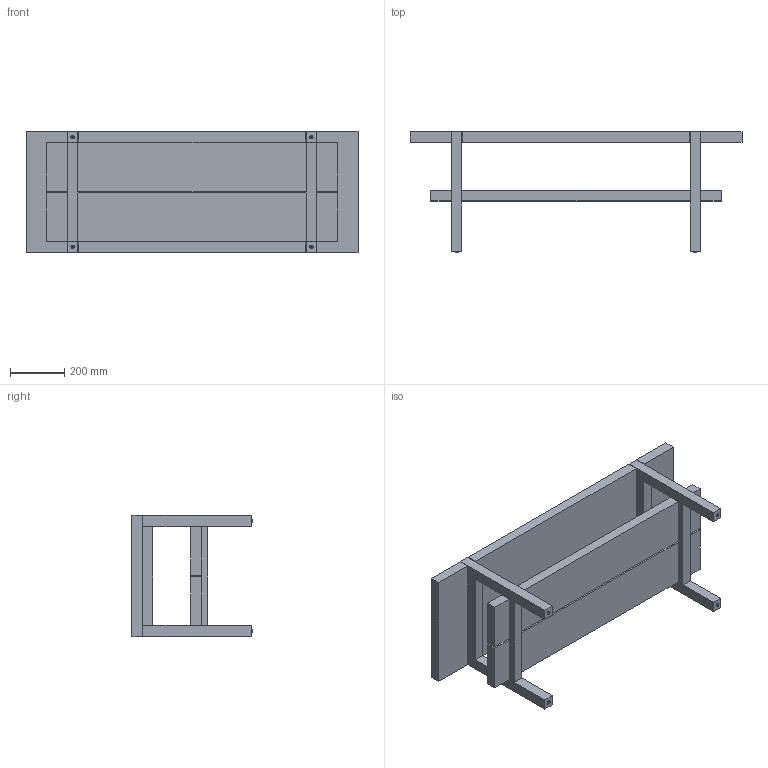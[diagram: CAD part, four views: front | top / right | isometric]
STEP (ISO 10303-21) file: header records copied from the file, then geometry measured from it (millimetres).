
FILE_DESCRIPTION (( 'STEP AP203' ), '1' );
FILE_NAME ('Post Company Chamber Bench 48in.STEP', '2022-11-02T18:29:42', ( '' ), ( '' ), 'SwSTEP 2.0', 'SolidWorks 2021', '' );
FILE_SCHEMA (( 'CONFIG_CONTROL_DESIGN' ));
Length unit declared in the file: millimetre
Products named in the file (1): Post Company Chamber Bench 48in
Bounding box: 1219.2 x 441.32 x 444.5 mm (x, y, z)
Volume: 39344253.7 mm3; surface area: 2697016 mm2
Topology: 15 solids, 15 shells, 146 faces, 316 edges, 208 vertices
Faces by surface type: plane 114, cylinder 24, torus 8
Entity records: 3989 total; most frequent: DIRECTION 674, CARTESIAN_POINT 671, ORIENTED_EDGE 632, EDGE_CURVE 316, VECTOR 252, LINE 252, AXIS2_PLACEMENT_3D 211, VERTEX_POINT 208
